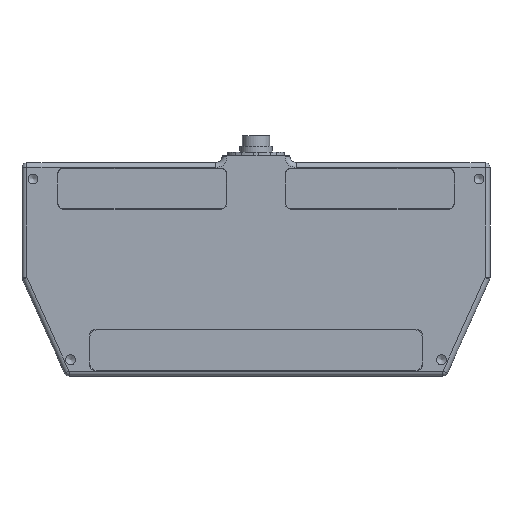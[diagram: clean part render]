
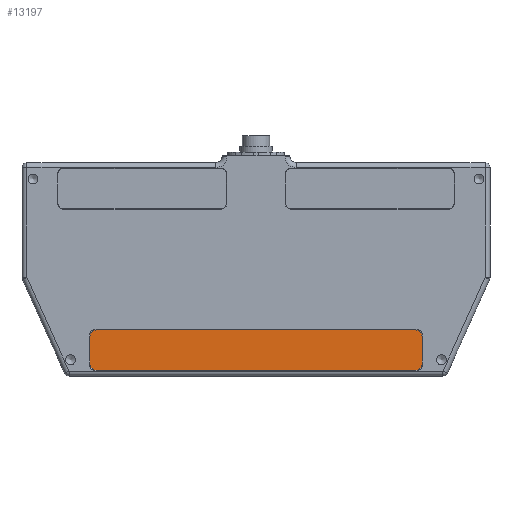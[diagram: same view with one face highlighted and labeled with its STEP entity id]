
A CAD part, front view. The second image highlights one B-rep face of the part: STEP entity #13197.
In plain terms, the highlighted planar face has unit normal (0, -1, 0).
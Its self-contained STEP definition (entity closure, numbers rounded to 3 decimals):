
#21 = DIRECTION ( 'NONE',  ( 0., -1., 0. ) ) ;
#357 = DIRECTION ( 'NONE',  ( 0., -1., 0. ) ) ;
#452 = ORIENTED_EDGE ( 'NONE', *, *, #13982, .T. ) ;
#463 = DIRECTION ( 'NONE',  ( 0., 1., 0. ) ) ;
#1190 = EDGE_CURVE ( 'NONE', #14116, #9900, #1820, .T. ) ;
#1463 = CARTESIAN_POINT ( 'NONE',  ( -85.623, 8.467, -48.825 ) ) ;
#1480 = LINE ( 'NONE', #3183, #2980 ) ;
#1803 = ORIENTED_EDGE ( 'NONE', *, *, #1190, .T. ) ;
#1820 = CIRCLE ( 'NONE', #14555, 3.175 ) ;
#2226 = EDGE_CURVE ( 'NONE', #9900, #12241, #3307, .T. ) ;
#2234 = VECTOR ( 'NONE', #2530, 1000. ) ;
#2530 = DIRECTION ( 'NONE',  ( 0., 0., -1. ) ) ;
#2541 = LINE ( 'NONE', #3602, #5738 ) ;
#2652 = CARTESIAN_POINT ( 'NONE',  ( -82.448, 8.467, -48.825 ) ) ;
#2724 = CARTESIAN_POINT ( 'NONE',  ( 85.623, 8.467, -48.825 ) ) ;
#2980 = VECTOR ( 'NONE', #11578, 1000. ) ;
#3150 = VERTEX_POINT ( 'NONE', #10999 ) ;
#3183 = CARTESIAN_POINT ( 'NONE',  ( -85.623, 8.467, -52. ) ) ;
#3271 = DIRECTION ( 'NONE',  ( 0., 0., 1. ) ) ;
#3307 = LINE ( 'NONE', #6604, #2234 ) ;
#3602 = CARTESIAN_POINT ( 'NONE',  ( -85.623, 8.467, -31.218 ) ) ;
#3634 = EDGE_CURVE ( 'NONE', #12290, #11449, #10670, .T. ) ;
#3650 = EDGE_CURVE ( 'NONE', #11449, #14116, #2541, .T. ) ;
#4357 = CARTESIAN_POINT ( 'NONE',  ( 85.623, 8.467, -34.393 ) ) ;
#4548 = CARTESIAN_POINT ( 'NONE',  ( 82.448, 8.467, -48.825 ) ) ;
#4750 = EDGE_CURVE ( 'NONE', #6171, #12290, #17512, .T. ) ;
#4770 = CARTESIAN_POINT ( 'NONE',  ( 85.623, 8.467, -31.218 ) ) ;
#5371 = EDGE_CURVE ( 'NONE', #12241, #15950, #9951, .T. ) ;
#5738 = VECTOR ( 'NONE', #11741, 1000. ) ;
#5743 = DIRECTION ( 'NONE',  ( 0., 0., 1. ) ) ;
#5968 = PLANE ( 'NONE',  #13158 ) ;
#6171 = VERTEX_POINT ( 'NONE', #2724 ) ;
#6604 = CARTESIAN_POINT ( 'NONE',  ( -85.623, 8.467, -31.218 ) ) ;
#6684 = ORIENTED_EDGE ( 'NONE', *, *, #5371, .T. ) ;
#6789 = AXIS2_PLACEMENT_3D ( 'NONE', #2652, #21, #13650 ) ;
#7393 = DIRECTION ( 'NONE',  ( 0., 0., 1. ) ) ;
#7884 = CARTESIAN_POINT ( 'NONE',  ( -82.448, 8.467, -52. ) ) ;
#8052 = VECTOR ( 'NONE', #7393, 1000. ) ;
#8854 = CARTESIAN_POINT ( 'NONE',  ( -82.448, 8.467, -31.218 ) ) ;
#8942 = CARTESIAN_POINT ( 'NONE',  ( 82.448, 8.467, -31.218 ) ) ;
#8996 = ORIENTED_EDGE ( 'NONE', *, *, #3650, .T. ) ;
#9831 = CIRCLE ( 'NONE', #16283, 3.175 ) ;
#9900 = VERTEX_POINT ( 'NONE', #17005 ) ;
#9951 = CIRCLE ( 'NONE', #6789, 3.175 ) ;
#10131 = CARTESIAN_POINT ( 'NONE',  ( -82.448, 8.467, -34.393 ) ) ;
#10241 = CARTESIAN_POINT ( 'NONE',  ( 82.448, 8.467, -34.393 ) ) ;
#10563 = AXIS2_PLACEMENT_3D ( 'NONE', #10241, #17265, #17200 ) ;
#10670 = CIRCLE ( 'NONE', #10563, 3.175 ) ;
#10999 = CARTESIAN_POINT ( 'NONE',  ( 82.448, 8.467, -52. ) ) ;
#11449 = VERTEX_POINT ( 'NONE', #8942 ) ;
#11578 = DIRECTION ( 'NONE',  ( 1., 0., 0. ) ) ;
#11581 = DIRECTION ( 'NONE',  ( 0., -1., 0. ) ) ;
#11741 = DIRECTION ( 'NONE',  ( -1., 0., 0. ) ) ;
#11753 = DIRECTION ( 'NONE',  ( 0., 0., 1. ) ) ;
#12241 = VERTEX_POINT ( 'NONE', #1463 ) ;
#12290 = VERTEX_POINT ( 'NONE', #4357 ) ;
#12299 = ORIENTED_EDGE ( 'NONE', *, *, #4750, .T. ) ;
#13158 = AXIS2_PLACEMENT_3D ( 'NONE', #16942, #463, #3271 ) ;
#13197 = ADVANCED_FACE ( 'NONE', ( #13544 ), #5968, .F. ) ;
#13369 = EDGE_LOOP ( 'NONE', ( #12299, #17745, #8996, #1803, #15235, #6684, #16484, #452 ) ) ;
#13544 = FACE_OUTER_BOUND ( 'NONE', #13369, .T. ) ;
#13604 = EDGE_CURVE ( 'NONE', #15950, #3150, #1480, .T. ) ;
#13650 = DIRECTION ( 'NONE',  ( 0., 0., 1. ) ) ;
#13982 = EDGE_CURVE ( 'NONE', #3150, #6171, #9831, .T. ) ;
#14116 = VERTEX_POINT ( 'NONE', #8854 ) ;
#14555 = AXIS2_PLACEMENT_3D ( 'NONE', #10131, #11581, #11753 ) ;
#15235 = ORIENTED_EDGE ( 'NONE', *, *, #2226, .T. ) ;
#15950 = VERTEX_POINT ( 'NONE', #7884 ) ;
#16283 = AXIS2_PLACEMENT_3D ( 'NONE', #4548, #357, #5743 ) ;
#16484 = ORIENTED_EDGE ( 'NONE', *, *, #13604, .T. ) ;
#16942 = CARTESIAN_POINT ( 'NONE',  ( 0., 8.467, 0. ) ) ;
#17005 = CARTESIAN_POINT ( 'NONE',  ( -85.623, 8.467, -34.393 ) ) ;
#17200 = DIRECTION ( 'NONE',  ( 0., 0., 1. ) ) ;
#17265 = DIRECTION ( 'NONE',  ( 0., -1., 0. ) ) ;
#17512 = LINE ( 'NONE', #4770, #8052 ) ;
#17745 = ORIENTED_EDGE ( 'NONE', *, *, #3634, .T. ) ;
